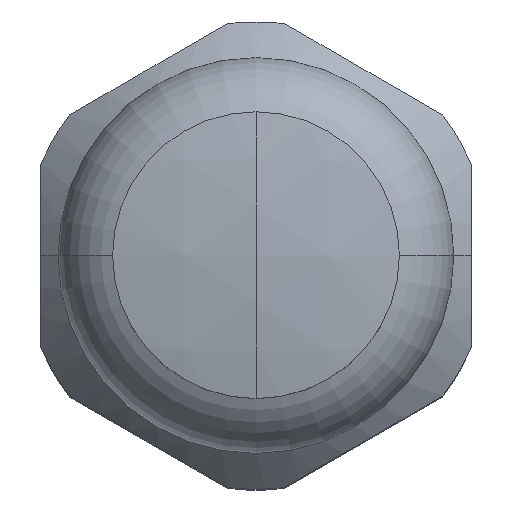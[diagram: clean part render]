
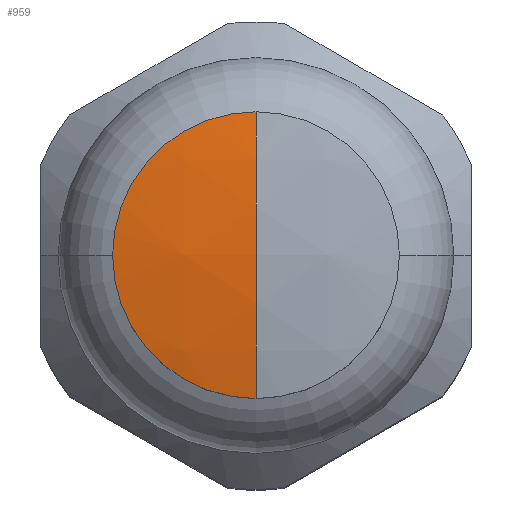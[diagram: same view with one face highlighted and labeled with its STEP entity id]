
A CAD part, top view. The second image highlights one B-rep face of the part: STEP entity #959.
In plain terms, the highlighted spherical face has radius 25.25 mm.
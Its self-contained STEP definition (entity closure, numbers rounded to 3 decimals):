
#81 = VERTEX_POINT ( 'NONE', #1253 ) ;
#82 = VERTEX_POINT ( 'NONE', #1252 ) ;
#87 = EDGE_CURVE ( 'NONE', #81, #88, #1103, .T. ) ;
#88 = VERTEX_POINT ( 'NONE', #1099 ) ;
#90 = EDGE_CURVE ( 'NONE', #81, #82, #1098, .T. ) ;
#959 = ADVANCED_FACE ( 'NONE', ( #2556 ), #2555, .T. ) ;
#960 = EDGE_LOOP ( 'NONE', ( #961, #962, #963 ) ) ;
#961 = ORIENTED_EDGE ( 'NONE', *, *, #90, .F. ) ;
#962 = ORIENTED_EDGE ( 'NONE', *, *, #87, .T. ) ;
#963 = ORIENTED_EDGE ( 'NONE', *, *, #1054, .F. ) ;
#1054 = EDGE_CURVE ( 'NONE', #82, #88, #2748, .T. ) ;
#1094 = DIRECTION ( 'NONE',  ( 0., 1., 0. ) ) ;
#1095 = DIRECTION ( 'NONE',  ( 1., 0., 0. ) ) ;
#1096 = CARTESIAN_POINT ( 'NONE',  ( 0., 0., 9.25 ) ) ;
#1097 = AXIS2_PLACEMENT_3D ( 'NONE', #1096, #1095, #1094 ) ;
#1098 = CIRCLE ( 'NONE', #1097, 25.25 ) ;
#1099 = CARTESIAN_POINT ( 'NONE',  ( 0., 5., 34. ) ) ;
#1100 = DIRECTION ( 'NONE',  ( 0., 0., 1. ) ) ;
#1101 = DIRECTION ( 'NONE',  ( -1., 0., 0. ) ) ;
#1102 = AXIS2_PLACEMENT_3D ( 'NONE', #1244, #1101, #1100 ) ;
#1103 = CIRCLE ( 'NONE', #1102, 25.25 ) ;
#1244 = CARTESIAN_POINT ( 'NONE',  ( 0., 0., 9.25 ) ) ;
#1252 = CARTESIAN_POINT ( 'NONE',  ( 0., -5., 34. ) ) ;
#1253 = CARTESIAN_POINT ( 'NONE',  ( 0., 0., 34.5 ) ) ;
#2551 = DIRECTION ( 'NONE',  ( 0., 1., 0. ) ) ;
#2552 = DIRECTION ( 'NONE',  ( 1., 0., 0. ) ) ;
#2553 = CARTESIAN_POINT ( 'NONE',  ( 0., 0., 9.25 ) ) ;
#2554 = AXIS2_PLACEMENT_3D ( 'NONE', #2553, #2552, #2551 ) ;
#2555 = SPHERICAL_SURFACE ( 'NONE', #2554, 25.25 ) ;
#2556 = FACE_OUTER_BOUND ( 'NONE', #960, .T. ) ;
#2744 = DIRECTION ( 'NONE',  ( 0., 1., 0. ) ) ;
#2745 = DIRECTION ( 'NONE',  ( 0., 0., -1. ) ) ;
#2746 = CARTESIAN_POINT ( 'NONE',  ( 0., 0., 34. ) ) ;
#2747 = AXIS2_PLACEMENT_3D ( 'NONE', #2746, #2745, #2744 ) ;
#2748 = CIRCLE ( 'NONE', #2747, 5. ) ;
